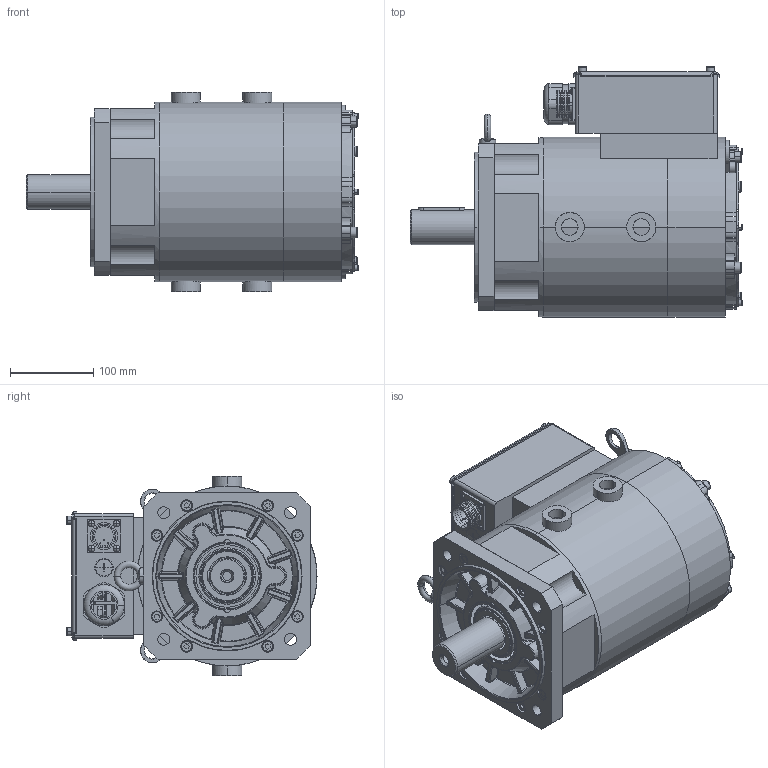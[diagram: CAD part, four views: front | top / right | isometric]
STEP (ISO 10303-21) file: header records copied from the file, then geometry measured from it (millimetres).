
FILE_DESCRIPTION((''),'2;1');
FILE_NAME('11101-01772_SW0001','2026-02-12T16:47:26',('admin'),(''),'CREO PARAMETRIC BY PTC INC, 2019080','CREO PARAMETRIC BY PTC INC, 2019080','');
FILE_SCHEMA(('CONFIG_CONTROL_DESIGN'));
Length unit declared in the file: millimetre
Products named in the file (1): 11101-01772_SW0001
Bounding box: 399 x 300.5 x 240 mm (x, y, z)
Surface area: 835911.6 mm2 (no closed solid volume)
Topology: 0 solids, 124 shells, 823 faces, 3290 edges, 2524 vertices
Faces by surface type: plane 341, cylinder 302, cone 78, torus 66, bspline 23, sphere 13
Entity records: 39014 total; most frequent: CARTESIAN_POINT 11862, DIRECTION 5933, ORIENTED_EDGE 4631, EDGE_CURVE 3287, VERTEX_POINT 2524, AXIS2_PLACEMENT_3D 2181, VECTOR 1571, LINE 1571
